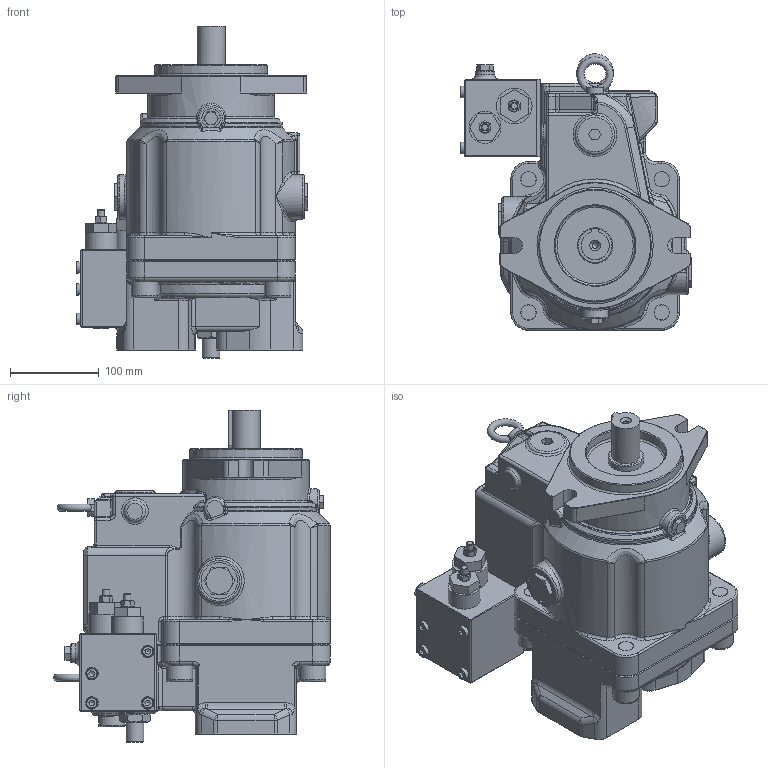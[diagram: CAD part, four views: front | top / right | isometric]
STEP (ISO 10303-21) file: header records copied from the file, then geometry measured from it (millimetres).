
FILE_DESCRIPTION(/* description */ (''),/* implementation_level */ '2;1');
FILE_NAME(/* name */ 'C:\Users\SJolliffe\Desktop\K3VL112 B 1RLXS-L1.stp',/* time_stamp */ '2017-11-15T13:56:04+00:00',/* author */ ('Sjolliffe'),/* organization */ (''),/* preprocessor_version */ 'ST-DEVELOPER v16.13',/* originating_system */ 'Autodesk Inventor 2018',/* authorisation */ '');
FILE_SCHEMA (('AUTOMOTIVE_DESIGN { 1 0 10303 214 3 1 1 }'));
Length unit declared in the file: inch
Products named in the file (1): K3VL112 B 1RLXS-L1
Bounding box: 261 x 311.5 x 373.92 mm (x, y, z)
Volume: 9766143.4 mm3; surface area: 595379.3 mm2
Topology: 1 solids, 21 shells, 1187 faces, 2776 edges, 1627 vertices
Faces by surface type: plane 431, cylinder 275, bspline 179, cone 160, torus 120, sphere 22
Full cylindrical faces by diameter (mm): 4.917 x4, 6.647 x6, 8 x6, 9 x4, 9.144 x1, 9.25 x1, 10.106 x4, 11.113 x1, 11.835 x4, 13 x4, 14 x4, 16 x2, 17.294 x5, 20 x7, 21 x1, 22 x6, 30 x5, 31.75 x1, 32 x6, 36 x1, 40 x2, 41 x2, 47 x1, 50 x1, 64 x1, 90 x1, 126.975 x1, 142.365 x1
Entity records: 41660 total; most frequent: CARTESIAN_POINT 15760, ORIENTED_EDGE 5044, DIRECTION 5007, EDGE_CURVE 2522, AXIS2_PLACEMENT_3D 2028, VERTEX_POINT 1584, EDGE_LOOP 1414, FACE_OUTER_BOUND 1187
